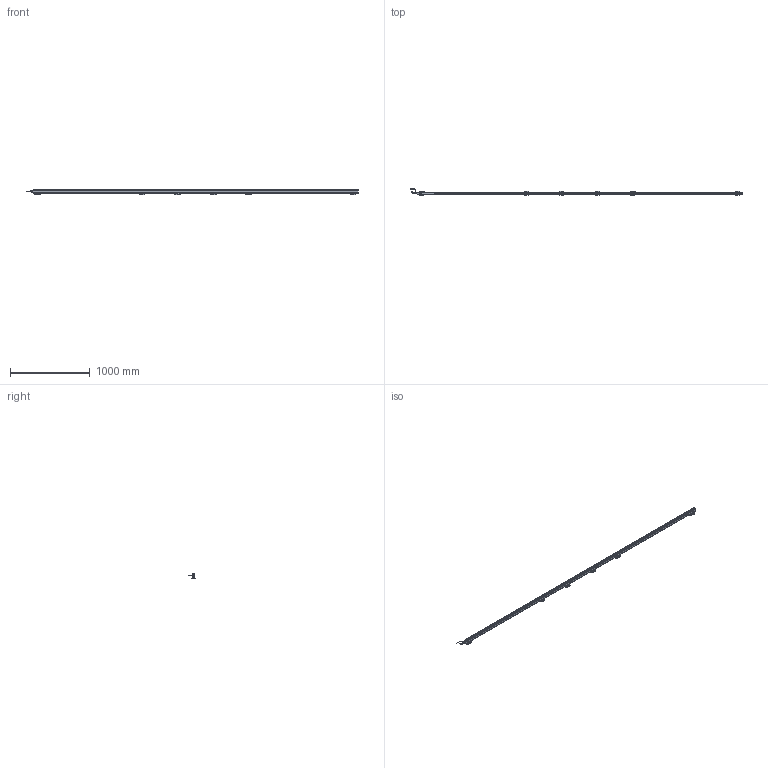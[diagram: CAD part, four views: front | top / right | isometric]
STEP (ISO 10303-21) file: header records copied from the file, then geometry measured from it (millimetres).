
FILE_DESCRIPTION(('Bauteilbeschreibung','HiCAD-Model','HiCAD-STEP-TRANSLATION','Bauteilbeschreibung'),'2;1');
FILE_NAME('PERFORMAXIQEASY_3990-4080_3D.STP','2014-03-05T13:32:21+00:00',('Konstrukteur'),('Konstrukteur Firma GmbH'),' HiCAD 2011, Step 1600.0 ','HiCAD 2011','confidential');
FILE_SCHEMA(('AUTOMOTIVE_DESIGN { 1 2 10303 214 0 1 1 1 }'));
Products named in the file (56): PERFORMAXIQEASY_3990_4080_3D; A_PERFORMAX IQ EASY 3990_4080; A_PERFORMAX IQ EASY SPEED; A_CAP DE; A_CAP CE_5; LED_2C_3MM; LED02C03MM; A519020315_CONNECTOR APPLIANCE; A_INSERT; A_CONTACTS; A_HOUSING; A_PROFILE; A_POTTING; PIN; PIN0; A532000100_BRACKET BARS_ MOUNT; A_SIDE PIECE; A0SIDE0PIECE; A_BRACKET SMALL; A_SLIDE PIECE; A5320001000BRACKET0BARS00MOUNT; A0SIDE0PIECE0; A0SIDE0PIECE1; A0BRACKET0SMALL; A0SLIDE0PIECE; A5320001000BRACKET0BARS00MOUNT0; A0SIDE0PIECE2; A0SIDE0PIECE3; A0BRACKET0SMALL0; A0SLIDE0PIECE0; A0SIDE0PIECE4; A0SIDE0PIECE5; A0BRACKET0SMALL1; A0SLIDE0PIECE1; A0SIDE0PIECE6; A0SIDE0PIECE7; A0BRACKET0SMALL2; A0SLIDE0PIECE2; A0SIDE0PIECE8; A0SIDE0PIECE9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
Assembly tree (55 placements, depth 5):
  PERFORMAXIQEASY_3990_4080_3D
    A_PERFORMAX IQ EASY 3990_4080
      A_PERFORMAX IQ EASY SPEED
        A_CAP DE
        A_CAP CE_5
        LED_2C_3MM
        LED02C03MM
        A519020315_CONNECTOR APPLIANCE
          A_INSERT
          A_CONTACTS
          A_HOUSING
        A_PROFILE
        A_POTTING
        PIN
        PIN0
      A532000100_BRACKET BARS_ MOUNT
        A_SIDE PIECE
        A0SIDE0PIECE
        A_BRACKET SMALL
        A_SLIDE PIECE
      A5320001000BRACKET0BARS00MOUNT
        A0SIDE0PIECE0
        A0SIDE0PIECE1
        A0BRACKET0SMALL
        A0SLIDE0PIECE
      A5320001000BRACKET0BARS00MOUNT0
        A0SIDE0PIECE2
        A0SIDE0PIECE3
        A0BRACKET0SMALL0
        A0SLIDE0PIECE0
      A5320001000BRACKET0BARS00MOUNT0
        A0SIDE0PIECE4
        A0SIDE0PIECE5
        A0BRACKET0SMALL1
        A0SLIDE0PIECE1
      A5320001000BRACKET0BARS00MOUNT0
        A0SIDE0PIECE6
        A0SIDE0PIECE7
        A0BRACKET0SMALL2
        A0SLIDE0PIECE2
      A5320001000BRACKET0BARS00MOUNT0
        A0SIDE0PIECE8
        A0SIDE0PIECE9
        A0BRACKET0SMALL3
        A0SLIDE0PIECE3
      A_CONNECTOR STRAIGHT
        EXTRUDED SOLID_0
        DRAAD GEBOGEN
        REVOLVED SOLID_1
        REVOLVED SOLID_3
      A_CONNECTOR ANGLED
        REVOLVED0SOLID01
        EXTRUDED0SOLID00
        C_EDGE SWEEP_0
        REVOLVED SOLID_2
        REVOLVED0SOLID03
Bounding box: 4157.89 x 84.16 x 63.13 mm (x, y, z)
Volume: 4200420.8 mm3; surface area: 1014585.4 mm2
Topology: 49 solids, 49 shells, 4983 faces, 12800 edges, 7585 vertices
Faces by surface type: cylinder 2137, plane 1879, sphere 332, torus 299, bspline 248, cone 88
Full cylindrical faces by diameter (mm): 0.8 x10, 1 x5, 2.387 x12, 3 x27, 3.1 x1, 4.2 x2, 5 x4, 5.5 x30, 8 x2, 8.2 x1, 8.4 x2, 8.945 x1, 9 x2, 10.2 x1, 10.5 x3, 11 x1, 12 x3, 12.8 x1, 13.8 x4, 14.5 x3
Entity records: 231105 total; most frequent: CARTESIAN_POINT 54548, DIRECTION 24777, ORIENTED_EDGE 24320, EDGE_CURVE 12160, COLOUR_RGB 11541, PRESENTATION_STYLE_ASSIGNMENT 11541, OVER_RIDING_STYLED_ITEM 11497, CURVE_STYLE 11492
